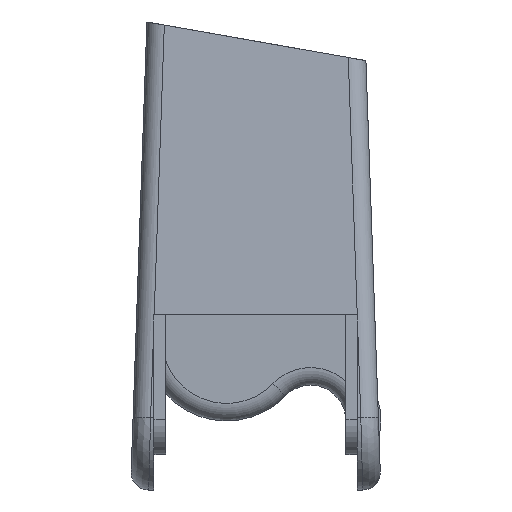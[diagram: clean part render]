
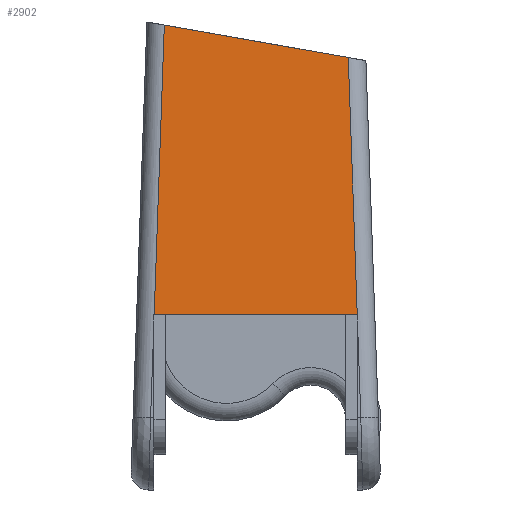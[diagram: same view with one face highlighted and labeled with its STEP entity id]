
A CAD part, left-side view. The second image highlights one B-rep face of the part: STEP entity #2902.
In plain terms, the highlighted planar face has unit normal (-0.999, 0, 0.035).
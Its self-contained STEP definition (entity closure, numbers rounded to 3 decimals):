
#28 = CARTESIAN_POINT ( 'NONE',  ( -69.476, -8.677, 18. ) ) ;
#40 = VECTOR ( 'NONE', #2690, 1000. ) ;
#65 = CARTESIAN_POINT ( 'NONE',  ( -70., 0., 3. ) ) ;
#66 = LINE ( 'NONE', #1436, #1176 ) ;
#74 = LINE ( 'NONE', #93, #1768 ) ;
#93 = CARTESIAN_POINT ( 'NONE',  ( -69.989, -9.19, 3.321 ) ) ;
#310 = EDGE_CURVE ( 'NONE', #1659, #2145, #2622, .T. ) ;
#526 = EDGE_LOOP ( 'NONE', ( #1599, #1452, #1438, #2800 ) ) ;
#537 = DIRECTION ( 'NONE',  ( -0.035, 0.035, -0.999 ) ) ;
#769 = DIRECTION ( 'NONE',  ( 0.035, 0., 0.999 ) ) ;
#911 = CARTESIAN_POINT ( 'NONE',  ( -68.709, -7.91, 39.965 ) ) ;
#962 = EDGE_CURVE ( 'NONE', #2145, #2397, #66, .T. ) ;
#1164 = CARTESIAN_POINT ( 'NONE',  ( -69.476, 8.677, 18. ) ) ;
#1176 = VECTOR ( 'NONE', #2858, 1000. ) ;
#1243 = EDGE_CURVE ( 'NONE', #1659, #1942, #2907, .T. ) ;
#1251 = PLANE ( 'NONE',  #1785 ) ;
#1436 = CARTESIAN_POINT ( 'NONE',  ( -69.476, -8.7, 18. ) ) ;
#1438 = ORIENTED_EDGE ( 'NONE', *, *, #962, .T. ) ;
#1441 = EDGE_CURVE ( 'NONE', #2397, #1942, #74, .T. ) ;
#1452 = ORIENTED_EDGE ( 'NONE', *, *, #310, .T. ) ;
#1599 = ORIENTED_EDGE ( 'NONE', *, *, #1243, .F. ) ;
#1659 = VERTEX_POINT ( 'NONE', #2784 ) ;
#1768 = VECTOR ( 'NONE', #2639, 1000. ) ;
#1785 = AXIS2_PLACEMENT_3D ( 'NONE', #65, #1985, #769 ) ;
#1942 = VERTEX_POINT ( 'NONE', #911 ) ;
#1985 = DIRECTION ( 'NONE',  ( -0.999, 0., 0.035 ) ) ;
#2122 = VECTOR ( 'NONE', #537, 1000. ) ;
#2145 = VERTEX_POINT ( 'NONE', #1164 ) ;
#2185 = FACE_OUTER_BOUND ( 'NONE', #526, .T. ) ;
#2397 = VERTEX_POINT ( 'NONE', #28 ) ;
#2460 = CARTESIAN_POINT ( 'NONE',  ( -68.701, -6.568, 40.202 ) ) ;
#2622 = LINE ( 'NONE', #2835, #2122 ) ;
#2639 = DIRECTION ( 'NONE',  ( 0.035, 0.035, 0.999 ) ) ;
#2690 = DIRECTION ( 'NONE',  ( -0.006, -0.985, -0.174 ) ) ;
#2784 = CARTESIAN_POINT ( 'NONE',  ( -68.612, 7.813, 42.737 ) ) ;
#2800 = ORIENTED_EDGE ( 'NONE', *, *, #1441, .T. ) ;
#2835 = CARTESIAN_POINT ( 'NONE',  ( -69.989, 9.19, 3.321 ) ) ;
#2858 = DIRECTION ( 'NONE',  ( 0., -1., 0. ) ) ;
#2902 = ADVANCED_FACE ( 'NONE', ( #2185 ), #1251, .T. ) ;
#2907 = LINE ( 'NONE', #2460, #40 ) ;
